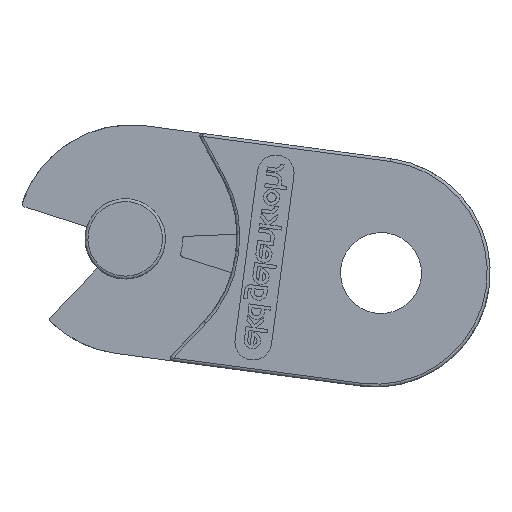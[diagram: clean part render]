
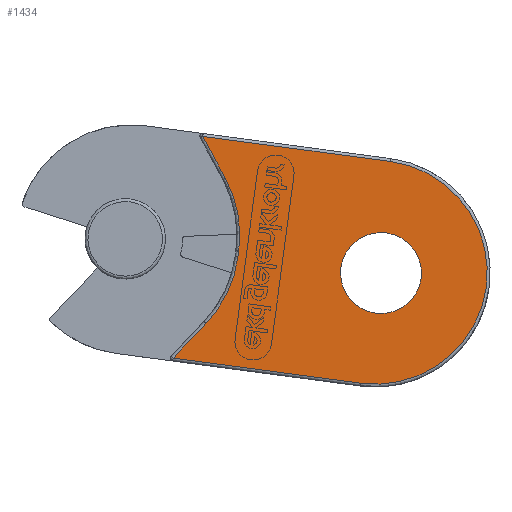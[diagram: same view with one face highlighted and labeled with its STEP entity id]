
A CAD part, front view. The second image highlights one B-rep face of the part: STEP entity #1434.
In plain terms, the highlighted free-form (B-spline) face has degree [1, 1] with [2, 2] control points.
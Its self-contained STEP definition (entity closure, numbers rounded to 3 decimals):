
#1048=CARTESIAN_POINT('',(79.61,-3.534,110.82));
#1049=VERTEX_POINT('',#1048);
#1050=CARTESIAN_POINT('',(86.598,-3.534,109.887));
#1051=DIRECTION('',(0.,1.,0.));
#1052=DIRECTION('',(0.991,0.,-0.132));
#1053=AXIS2_PLACEMENT_3D('',#1050,#1051,#1052);
#1054=CIRCLE('',#1053,7.05);
#1055=EDGE_CURVE('',#1049,#1049,#1054,.T.);
#1357=CARTESIAN_POINT('',(110.778,-3.534,132.957));
#1358=CARTESIAN_POINT('',(104.146,-3.534,83.329));
#1359=CARTESIAN_POINT('',(51.304,-3.534,140.905));
#1360=CARTESIAN_POINT('',(44.672,-3.534,91.277));
#1361=B_SPLINE_SURFACE_WITH_KNOTS('',1,1,((#1357,#1359),(#1358,#1360)),.UNSPECIFIED.,.F.,.F.,.U.,(2,2),(2,2),(0.0,50.069),(0.0,60.002),.UNSPECIFIED.);
#1362=CARTESIAN_POINT('',(59.456,-3.534,126.412));
#1363=VERTEX_POINT('',#1362);
#1364=CARTESIAN_POINT('',(55.509,-3.534,133.715));
#1365=VERTEX_POINT('',#1364);
#1366=CARTESIAN_POINT('',(59.456,-3.534,126.412));
#1367=DIRECTION('',(-0.475,0.,0.88));
#1368=VECTOR('',#1367,8.301);
#1369=LINE('',#1366,#1368);
#1370=EDGE_CURVE('',#1363,#1365,#1369,.T.);
#1371=ORIENTED_EDGE('',*,*,#1370,.F.);
#1372=CARTESIAN_POINT('',(61.785,-3.534,113.707));
#1373=VERTEX_POINT('',#1372);
#1374=CARTESIAN_POINT('',(41.069,-3.534,116.475));
#1375=DIRECTION('',(0.,-1.,0.));
#1376=DIRECTION('',(0.984,0.,0.18));
#1377=AXIS2_PLACEMENT_3D('',#1374,#1375,#1376);
#1378=CIRCLE('',#1377,20.9);
#1379=EDGE_CURVE('',#1373,#1363,#1378,.T.);
#1380=ORIENTED_EDGE('',*,*,#1379,.F.);
#1381=CARTESIAN_POINT('',(61.653,-3.534,112.716));
#1382=VERTEX_POINT('',#1381);
#1383=CARTESIAN_POINT('',(61.653,-3.534,112.716));
#1384=DIRECTION('',(0.132,0.0,0.991));
#1385=VECTOR('',#1384,1.);
#1386=LINE('',#1383,#1385);
#1387=EDGE_CURVE('',#1382,#1373,#1386,.T.);
#1388=ORIENTED_EDGE('',*,*,#1387,.F.);
#1389=CARTESIAN_POINT('',(56.069,-3.534,101.068));
#1390=VERTEX_POINT('',#1389);
#1391=CARTESIAN_POINT('',(40.937,-3.534,115.484));
#1392=DIRECTION('',(0.,-1.,0.));
#1393=DIRECTION('',(0.902,0.,-0.432));
#1394=AXIS2_PLACEMENT_3D('',#1391,#1392,#1393);
#1395=CIRCLE('',#1394,20.9);
#1396=EDGE_CURVE('',#1390,#1382,#1395,.T.);
#1397=ORIENTED_EDGE('',*,*,#1396,.F.);
#1398=CARTESIAN_POINT('',(50.343,-3.534,95.058));
#1399=VERTEX_POINT('',#1398);
#1400=CARTESIAN_POINT('',(50.343,-3.534,95.058));
#1401=DIRECTION('',(0.69,0.,0.724));
#1402=VECTOR('',#1401,8.301);
#1403=LINE('',#1400,#1402);
#1404=EDGE_CURVE('',#1399,#1390,#1403,.T.);
#1405=ORIENTED_EDGE('',*,*,#1404,.F.);
#1406=CARTESIAN_POINT('',(83.023,-3.534,90.691));
#1407=VERTEX_POINT('',#1406);
#1408=CARTESIAN_POINT('',(83.023,-3.534,90.691));
#1409=DIRECTION('',(-0.991,0.,0.132));
#1410=VECTOR('',#1409,32.97);
#1411=LINE('',#1408,#1410);
#1412=EDGE_CURVE('',#1407,#1399,#1411,.T.);
#1413=ORIENTED_EDGE('',*,*,#1412,.F.);
#1414=CARTESIAN_POINT('',(88.189,-3.534,129.347));
#1415=VERTEX_POINT('',#1414);
#1416=CARTESIAN_POINT('',(85.606,-3.534,110.019));
#1417=DIRECTION('',(0.,1.,0.));
#1418=DIRECTION('',(0.991,0.,-0.132));
#1419=AXIS2_PLACEMENT_3D('',#1416,#1417,#1418);
#1420=CIRCLE('',#1419,19.5);
#1421=EDGE_CURVE('',#1415,#1407,#1420,.T.);
#1422=ORIENTED_EDGE('',*,*,#1421,.F.);
#1423=CARTESIAN_POINT('',(55.509,-3.534,133.715));
#1424=DIRECTION('',(0.991,0.,-0.132));
#1425=VECTOR('',#1424,32.97);
#1426=LINE('',#1423,#1425);
#1427=EDGE_CURVE('',#1365,#1415,#1426,.T.);
#1428=ORIENTED_EDGE('',*,*,#1427,.F.);
#1429=EDGE_LOOP('',(#1371,#1380,#1388,#1397,#1405,#1413,#1422,#1428));
#1430=FACE_OUTER_BOUND('',#1429,.T.);
#1431=ORIENTED_EDGE('',*,*,#1055,.T.);
#1432=EDGE_LOOP('',(#1431));
#1433=FACE_BOUND('',#1432,.T.);
#1434=ADVANCED_FACE('',(#1430,#1433),#1361,.F.);
